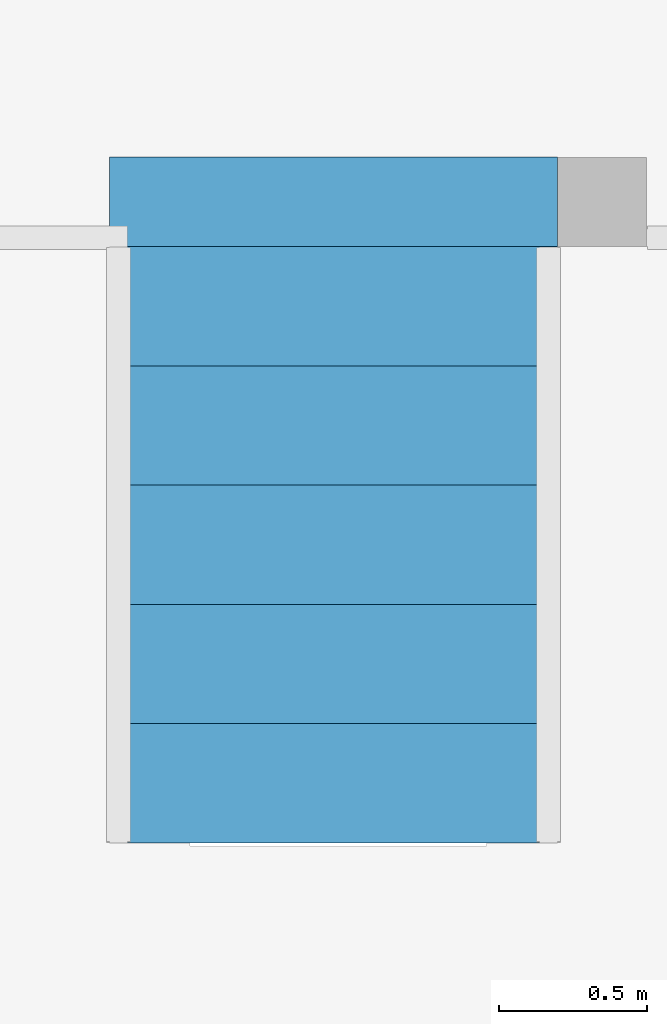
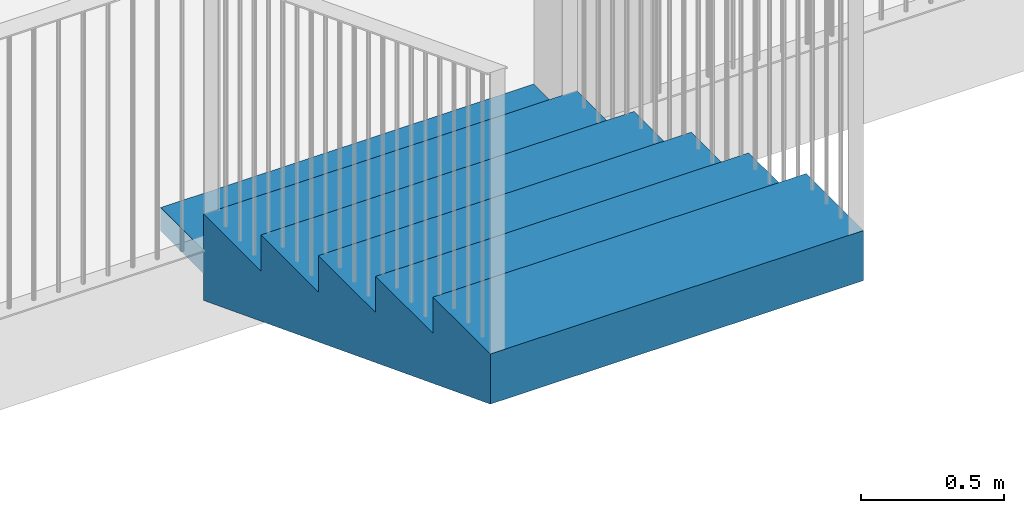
# One storey, part 29 of 43: 1 stair.
"""IFC2X3 building model written with IfcOpenShell, lengths in millimetres."""

from ifc_helpers import new_model, entity, si_unit, converted_unit, derived_unit, money_unit, direction, frame, origin_with_axes, place, context, subcontext, project, spatial, faceted_brep, material, element, save


model = new_model("IFC2X3")

# Units and contexts
model_context = context("Model", 3, precision=0.01, world=origin_with_axes(), true_north=direction((0.0, 1.0)))
body_context = subcontext(model_context, "Body", "Model", "MODEL_VIEW")
ifc_project = project(units=[si_unit("LENGTHUNIT", "METRE", prefix="MILLI"), si_unit("AREAUNIT", "SQUARE_METRE"), si_unit("VOLUMEUNIT", "CUBIC_METRE"), converted_unit("PLANEANGLEUNIT", "DEGREE", entity("IfcPlaneAngleMeasure", 0.0174532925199), si_unit("PLANEANGLEUNIT", "RADIAN"), dimensions=[0, 0, 0, 0, 0, 0, 0]), si_unit("SOLIDANGLEUNIT", "STERADIAN"), money_unit("EUR"), converted_unit("TIMEUNIT", "Year", entity("IfcTimeMeasure", 31556926.0), si_unit("TIMEUNIT", "SECOND"), dimensions=[0, 0, 1, 0, 0, 0, 0]), si_unit("MASSUNIT", "GRAM", prefix="KILO"), si_unit("THERMODYNAMICTEMPERATUREUNIT", "DEGREE_CELSIUS"), si_unit("LUMINOUSINTENSITYUNIT", "LUMEN"), si_unit("ENERGYUNIT", "JOULE", prefix="MEGA"), derived_unit("THERMALCONDUCTANCEUNIT", [(si_unit("POWERUNIT", "WATT"), 1), (si_unit("LENGTHUNIT", "METRE"), -1), (si_unit("THERMODYNAMICTEMPERATUREUNIT", "KELVIN"), -1)]), derived_unit("SPECIFICHEATCAPACITYUNIT", [(si_unit("ENERGYUNIT", "JOULE"), 1), (si_unit("MASSUNIT", "GRAM", prefix="KILO"), -1), (si_unit("THERMODYNAMICTEMPERATUREUNIT", "KELVIN"), -1)]), derived_unit("MASSDENSITYUNIT", [(si_unit("MASSUNIT", "GRAM", prefix="KILO"), 1), (si_unit("VOLUMEUNIT", "CUBIC_METRE"), -1)])], contexts=[model_context])

# Site, building, storey
site_placement = place(None, origin_with_axes())
site = spatial("IfcSite", under=ifc_project, at=site_placement, Name="L.Koidula tn 11b", CompositionType="ELEMENT")
building_placement = place(site_placement, origin_with_axes())
building = spatial("IfcBuilding", under=site, at=building_placement, Name="Rakvere Riigigümnaasium", CompositionType="ELEMENT")
storey_placement = place(building_placement, frame((0.0, 0.0, 6665.0), z_axis=(0.0, 0.0, 1.0), x_axis=(1.0, 0.0, 0.0)))
storey = spatial("IfcBuildingStorey", under=building, at=storey_placement, Name="3.korrus +6,66", CompositionType="ELEMENT", Elevation=6665.0)

# Stair
ifc_material = material(Name="Betoon")
stair_placement = place(storey_placement, frame((65600.0032311, 17317.9461888, 0.0), z_axis=(0.0, 0.0, 1.0), x_axis=(-0.999999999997, -2.37661281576e-06, 0.0)))
element("IfcStair", 1, at=stair_placement, inside=storey, material=ifc_material, Name="TR-07", ShapeType="NOTDEFINED", context=body_context, shape_type="Brep", body=[
    faceted_brep([(1510.00500088, -94.5128660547, -100.0), (1510.00570473, 205.487133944, -100.0), (1510.00570473, 205.487133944, -215.122806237), (1510.00570942, 207.487133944, -214.351661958), (1510.00589806, 287.887133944, -183.351661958), (1510.00608669, 368.287133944, -152.351661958), (1510.00627532, 448.687133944, -121.351661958), (1510.00646395, 529.087133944, -90.3516619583), (1510.00665258, 609.487133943, -59.3516619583), (1510.00684121, 689.887133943, -28.3516619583), (1510.00702985, 770.287133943, 2.64833804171), (1510.00721848, 850.687133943, 33.6483380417), (1510.00740711, 931.087133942, 64.6483380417), (1510.00759574, 1011.48713394, 95.6483380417), (1510.00778437, 1091.88713394, 126.648338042), (1510.00797301, 1172.28713394, 157.648338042), (1510.00816164, 1252.68713394, 188.648338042), (1510.00835027, 1333.08713394, 219.648338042), (1510.0085389, 1413.48713394, 250.648338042), (1510.00872753, 1493.88713394, 281.648338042), (1510.00891616, 1574.28713394, 312.648338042), (1510.0091048, 1654.68713394, 343.648338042), (1510.00929343, 1735.08713394, 374.648338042), (1510.00948206, 1815.48713394, 405.648338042), (1510.00967069, 1895.88713394, 436.648338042), (1510.00985932, 1976.28713394, 467.648338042), (1510.01004796, 2056.68713394, 498.648338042), (1510.01023659, 2137.08713394, 529.648338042), (1510.01042522, 2217.48713394, 560.648338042), (1510.01042522, 2217.48713394, 775.0), (1510.00948206, 1815.48713394, 775.0), (1510.00948206, 1815.48713394, 620.0), (1510.0085389, 1413.48713394, 620.0), (1510.0085389, 1413.48713394, 465.0), (1510.00759574, 1011.48713394, 465.0), (1510.00759574, 1011.48713394, 310.0), (1510.00665258, 609.487133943, 310.0), (1510.00665258, 609.487133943, 155.0), (1510.00570942, 207.487133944, 155.0), (1510.00570942, 207.487133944, 0.0), (1510.00500088, -94.5128660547, 0.0), (0.00570473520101, 205.490676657, -100.0), (0.0050008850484, -94.5093233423, -100.0), (0.00570473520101, 205.490676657, -215.122806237), (0.00570942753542, 207.490676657, -214.351661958), (0.00589805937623, 287.890676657, -183.351661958), (0.00608669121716, 368.290676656, -152.351661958), (0.00627532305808, 448.690676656, -121.351661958), (0.00646395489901, 529.090676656, -90.3516619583), (0.00665258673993, 609.490676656, -59.3516619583), (0.00684121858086, 689.890676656, -28.3516619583), (0.00702985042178, 770.290676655, 2.64833804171), (0.00721848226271, 850.690676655, 33.6483380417), (0.00740711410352, 931.090676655, 64.6483380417), (0.00759574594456, 1011.49067665, 95.6483380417), (0.00778437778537, 1091.89067665, 126.648338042), (0.00797300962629, 1172.29067665, 157.648338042), (0.00816164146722, 1252.69067665, 188.648338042), (0.00835027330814, 1333.09067665, 219.648338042), (0.00853890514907, 1413.49067665, 250.648338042), (0.00872753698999, 1493.89067665, 281.648338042), (0.00891616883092, 1574.29067665, 312.648338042), (0.00910480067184, 1654.69067665, 343.648338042), (0.00929343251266, 1735.09067665, 374.648338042), (0.00948206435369, 1815.49067665, 405.648338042), (0.00967069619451, 1895.89067665, 436.648338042), (0.00985932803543, 1976.29067665, 467.648338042), (0.0100479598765, 2056.69067665, 498.648338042), (0.0102365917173, 2137.09067665, 529.648338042), (0.0104252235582, 2217.49067665, 560.648338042), (0.0104252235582, 2217.49067665, 775.0), (0.00948206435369, 1815.49067665, 775.0), (0.00948206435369, 1815.49067665, 620.0), (0.00853890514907, 1413.49067665, 620.0), (0.00853890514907, 1413.49067665, 465.0), (0.00759574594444, 1011.49067665, 465.0), (0.00759574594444, 1011.49067665, 310.0), (0.00665258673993, 609.490676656, 310.0), (0.00665258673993, 609.490676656, 155.0), (0.00570942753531, 207.490676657, 155.0), (0.00570942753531, 207.490676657, 0.0), (0.0050008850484, -94.5093233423, 0.0)], [[[0, 1, 2, 3, 4, 5, 6, 7, 8, 9, 10, 11, 12, 13, 14, 15, 16, 17, 18, 19, 20, 21, 22, 23, 24, 25, 26, 27, 28, 29, 30, 31, 32, 33, 34, 35, 36, 37, 38, 39, 40]], [[41, 1, 0, 42]], [[43, 2, 1, 41]], [[3, 2, 43, 44]], [[3, 44, 45, 4]], [[4, 45, 46, 5]], [[5, 46, 47, 6]], [[6, 47, 48, 7]], [[7, 48, 49, 8]], [[8, 49, 50, 9]], [[9, 50, 51, 10]], [[10, 51, 52, 11]], [[11, 52, 53, 12]], [[12, 53, 54, 13]], [[13, 54, 55, 14]], [[14, 55, 56, 15]], [[15, 56, 57, 16]], [[16, 57, 58, 17]], [[17, 58, 59, 18]], [[18, 59, 60, 19]], [[19, 60, 61, 20]], [[20, 61, 62, 21]], [[21, 62, 63, 22]], [[22, 63, 64, 23]], [[23, 64, 65, 24]], [[24, 65, 66, 25]], [[25, 66, 67, 26]], [[26, 67, 68, 27]], [[27, 68, 69, 28]], [[69, 70, 29, 28]], [[30, 29, 70, 71]], [[30, 71, 72, 31]], [[73, 32, 31, 72]], [[32, 73, 74, 33]], [[75, 34, 33, 74]], [[34, 75, 76, 35]], [[77, 36, 35, 76]], [[36, 77, 78, 37]], [[79, 38, 37, 78]], [[38, 79, 80, 39]], [[39, 80, 81, 40]], [[81, 42, 0, 40]], [[43, 41, 42, 81, 80, 79, 78, 77, 76, 75, 74, 73, 72, 71, 70, 69, 68, 67, 66, 65, 64, 63, 62, 61, 60, 59, 58, 57, 56, 55, 54, 53, 52, 51, 50, 49, 48, 47, 46, 45, 44]]]),
])

save(model, "model.ifc")
